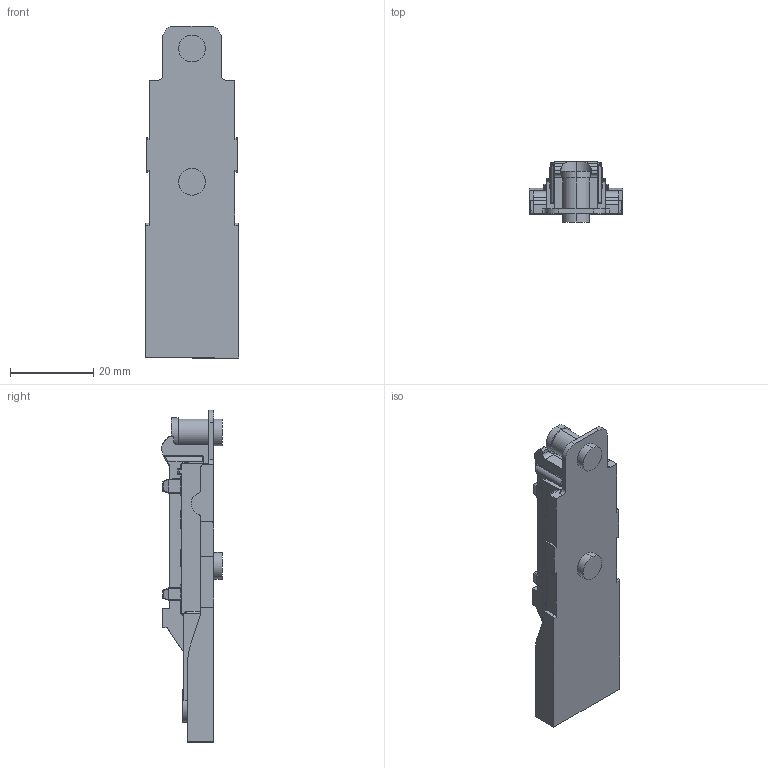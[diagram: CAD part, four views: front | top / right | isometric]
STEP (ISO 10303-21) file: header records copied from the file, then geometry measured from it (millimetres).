
FILE_DESCRIPTION (( 'STEP AP203' ), '1' );
FILE_NAME ('81H42YQA105.STEP', '2024-07-27T05:34:15', ( '微软用户' ), ( '微软中国' ), 'SwSTEP 2.0', 'SolidWorks 2021', '' );
FILE_SCHEMA (( 'CONFIG_CONTROL_DESIGN' ));
Length unit declared in the file: millimetre
Products named in the file (1): 81H42YQA105
Bounding box: 22.4 x 14.5 x 79.7 mm (x, y, z)
Volume: 12105.7 mm3; surface area: 5823.8 mm2
Topology: 1 solids, 1 shells, 520 faces, 1367 edges, 813 vertices
Faces by surface type: cylinder 211, plane 121, bspline 75, torus 72, sphere 41
Entity records: 17216 total; most frequent: CARTESIAN_POINT 5080, ORIENTED_EDGE 2648, DIRECTION 2445, EDGE_CURVE 1324, AXIS2_PLACEMENT_3D 924, VERTEX_POINT 813, VECTOR 597, LINE 597
